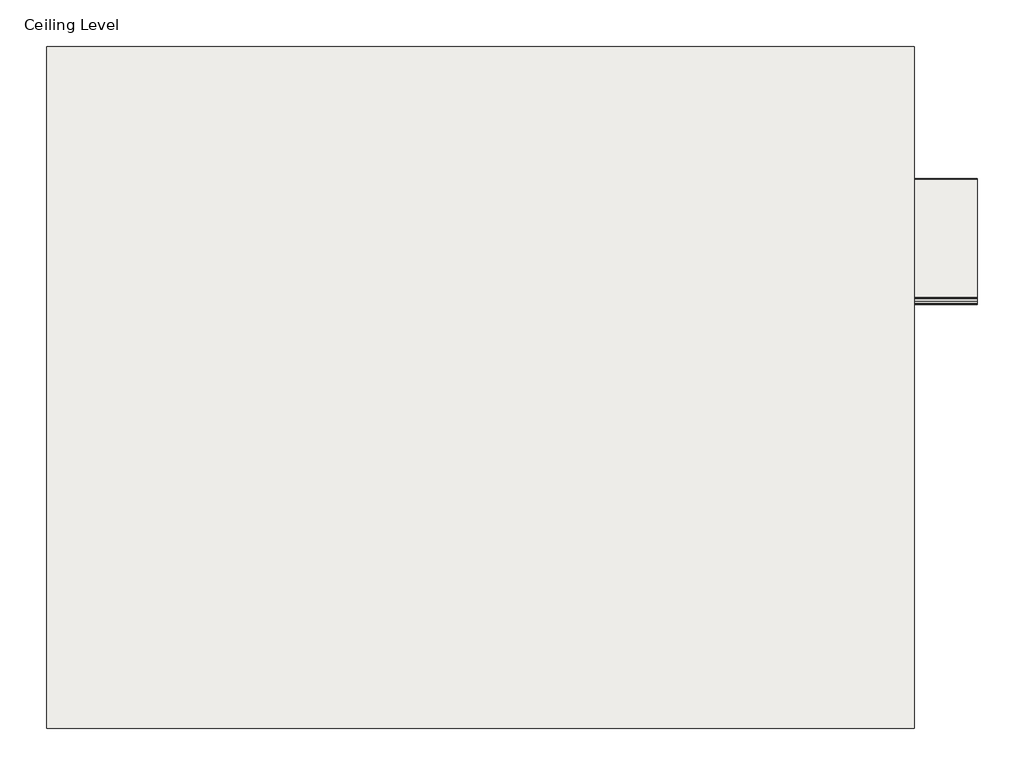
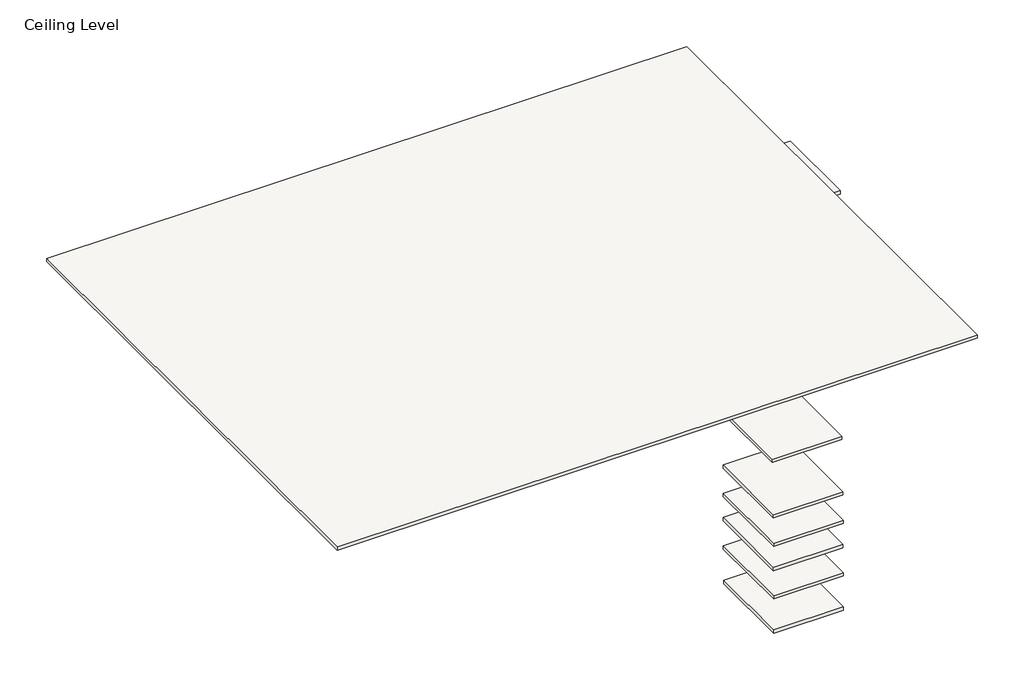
# One storey: 12 coverings.
"""IFC4 building model written with IfcOpenShell, lengths in millimetres."""

from ifc_helpers import new_model, si_unit, frame, origin, place, context, project, spatial, polyline, outline, extrude, element, save

model = new_model("IFC4")

# Units and contexts
model_context = context("Model", 3, world=origin())
ifc_project = project(units=[si_unit("LENGTHUNIT", "METRE", prefix="MILLI")], contexts=[model_context])

# Site, building, storey
site = spatial("IfcSite", under=ifc_project)
building = spatial("IfcBuilding", under=site)
storey = spatial("IfcBuildingStorey", under=building, Name="Ceiling Level", Elevation=0.0)

# Coverings
placement = place(None, origin())
element("IfcCovering", 1, ObjectType="Rockfon Sonar A15 (white) 600 x 600 x 20 mm", at=placement, inside=storey, context=model_context, shape_type="SweptSolid", body=[
    extrude(outline(polyline([(-7000.9781072, 8795.7122432), (-7000.9781072, 5895.7122432), (-10690.9781072, 5895.7122432), (-10690.9781072, 8795.7122432), (-7000.9781072, 8795.7122432)])), frame((0.0, 0.0, 1.0), z_axis=(0.0, 0.0, 1.0), x_axis=(1.0, 0.0, 0.0)), (0.0, 0.0, 1.0), 20.0),
])
element("IfcCovering", 2, ObjectType="Rockfon Sonar D (white) 600 x 600 x 20 mm", at=placement, inside=storey, context=model_context, shape_type="SweptSolid", body=[
    extrude(outline(polyline([(-6733.0033126, 8227.2505738), (-6733.0033126, 7727.2505738), (-7133.0033126, 7727.2505738), (-7133.0033126, 8227.2505738), (-6733.0033126, 8227.2505738)])), frame((0.0, 0.0, -811.7974827), z_axis=(0.0, 0.0, 1.0), x_axis=(1.0, 0.0, 0.0)), (0.0, 0.0, 1.0), 20.0),
])
element("IfcCovering", 3, ObjectType="Rockfon Sonar B (white) 600 x 600 x 20 mm", at=placement, inside=storey, context=model_context, shape_type="SweptSolid", body=[
    extrude(outline(polyline([(-6733.0033126, 8230.1232506), (-6733.0033126, 7730.1232506), (-7133.0033126, 7730.1232506), (-7133.0033126, 8230.1232506), (-6733.0033126, 8230.1232506)])), frame((0.0, 0.0, -640.5782246), z_axis=(0.0, 0.0, 1.0), x_axis=(1.0, 0.0, 0.0)), (0.0, 0.0, 1.0), 20.0),
])
element("IfcCovering", 4, ObjectType="Rockfon Sonar A15 (white) 600 x 600 x 20 mm", at=placement, inside=storey, context=model_context, shape_type="SweptSolid", body=[
    extrude(outline(polyline([(-6733.0033126, 8230.0529845), (-6733.0033126, 7730.0529845), (-7133.0033126, 7730.0529845), (-7133.0033126, 8230.0529845), (-6733.0033126, 8230.0529845)])), frame((0.0, 0.0, -325.8543236), z_axis=(0.0, 0.0, 1.0), x_axis=(1.0, 0.0, 0.0)), (0.0, 0.0, 1.0), 20.0),
])
element("IfcCovering", 5, ObjectType="Rockfon Sonar A24 (white) 600 x 600 x 20 mm", at=placement, inside=storey, context=model_context, shape_type="SweptSolid", body=[
    extrude(outline(polyline([(-6733.0033126, 8233.2225272), (-6733.0033126, 7733.2225272), (-7133.0033126, 7733.2225272), (-7133.0033126, 8233.2225272), (-6733.0033126, 8233.2225272)])), frame((0.0, 0.0, -477.035939), z_axis=(0.0, 0.0, 1.0), x_axis=(1.0, 0.0, 0.0)), (0.0, 0.0, 1.0), 20.0),
])
element("IfcCovering", 6, ObjectType="Rockfon Sonar E24 (white) 600 x 600 x 20 mm", at=placement, inside=storey, context=model_context, shape_type="SweptSolid", body=[
    extrude(outline(polyline([(-6733.0033126, 8201.7848965), (-6733.0033126, 7701.7848965), (-7133.0033126, 7701.7848965), (-7133.0033126, 8201.7848965), (-6733.0033126, 8201.7848965)])), frame((0.0, 0.0, -2317.6168816), z_axis=(0.0, 0.0, 1.0), x_axis=(1.0, 0.0, 0.0)), (0.0, 0.0, 1.0), 20.0),
])
element("IfcCovering", 7, ObjectType="Rockfon Sonar E15 (white) 600 x 600 x 20 mm", at=placement, inside=storey, context=model_context, shape_type="SweptSolid", body=[
    extrude(outline(polyline([(-6733.0033126, 8204.6575733), (-6733.0033126, 7704.6575733), (-7133.0033126, 7704.6575733), (-7133.0033126, 8204.6575733), (-6733.0033126, 8204.6575733)])), frame((0.0, 0.0, -2146.3194859), z_axis=(0.0, 0.0, 1.0), x_axis=(1.0, 0.0, 0.0)), (0.0, 0.0, 1.0), 20.0),
])
element("IfcCovering", 8, ObjectType="Rockfon Sonar X (white) 600 x 600 x 22 mm", at=placement, inside=storey, context=model_context, shape_type="SweptSolid", body=[
    extrude(outline(polyline([(-6733.0033126, 8199.1563308), (-6733.0033126, 7699.1563308), (-7133.0033126, 7699.1563308), (-7133.0033126, 8199.1563308), (-6733.0033126, 8199.1563308)])), frame((0.0, 0.0, -2846.2862244), z_axis=(0.0, 0.0, 1.0), x_axis=(1.0, 0.0, 0.0)), (0.0, 0.0, 1.0), 22.0),
])
element("IfcCovering", 9, ObjectType="Rockfon Sonar Dznl/A100 (white) 1200 x 300 x 20 mm", at=placement, inside=storey, context=model_context, shape_type="SweptSolid", body=[
    extrude(outline(polyline([(-6733.0033126, 8222.6111875), (-6733.0033126, 7722.6111875), (-7133.0033126, 7722.6111875), (-7133.0033126, 8222.6111875), (-6733.0033126, 8222.6111875)])), frame((0.0, 0.0, -1240.0686979), z_axis=(0.0, 0.0, 1.0), x_axis=(1.0, 0.0, 0.0)), (0.0, 0.0, 1.0), 20.0),
])
element("IfcCovering", 10, ObjectType="Rockfon Sonar Dznl/A24 (white) 1200 x 300 x 20 mm", at=placement, inside=storey, context=model_context, shape_type="SweptSolid", body=[
    extrude(outline(polyline([(-6733.0033126, 8213.2285474), (-6733.0033126, 7713.2285474), (-7133.0033126, 7713.2285474), (-7133.0033126, 8213.2285474), (-6733.0033126, 8213.2285474)])), frame((0.0, 0.0, -1812.1944762), z_axis=(0.0, 0.0, 1.0), x_axis=(1.0, 0.0, 0.0)), (0.0, 0.0, 1.0), 20.0),
])
element("IfcCovering", 11, ObjectType="Rockfon Sonar M (white) 600 x 600 x 20 mm", at=placement, inside=storey, context=model_context, shape_type="SweptSolid", body=[
    extrude(outline(polyline([(-6733.0033126, 8201.7848965), (-6733.0033126, 7701.7848965), (-7133.0033126, 7701.7848965), (-7133.0033126, 8201.7848965), (-6733.0033126, 8201.7848965)])), frame((0.0, 0.0, -2637.6168816), z_axis=(0.0, 0.0, 1.0), x_axis=(1.0, 0.0, 0.0)), (0.0, 0.0, 1.0), 20.0),
])
element("IfcCovering", 12, ObjectType="Rockfon Sonar G (white) 600 x 600 x 20 mm", at=placement, inside=storey, context=model_context, shape_type="SweptSolid", body=[
    extrude(outline(polyline([(-6733.0033126, 8204.6575733), (-6733.0033126, 7704.6575733), (-7133.0033126, 7704.6575733), (-7133.0033126, 8204.6575733), (-6733.0033126, 8204.6575733)])), frame((0.0, 0.0, -2466.3194859), z_axis=(0.0, 0.0, 1.0), x_axis=(1.0, 0.0, 0.0)), (0.0, 0.0, 1.0), 20.0),
])

save(model, "model.ifc")
